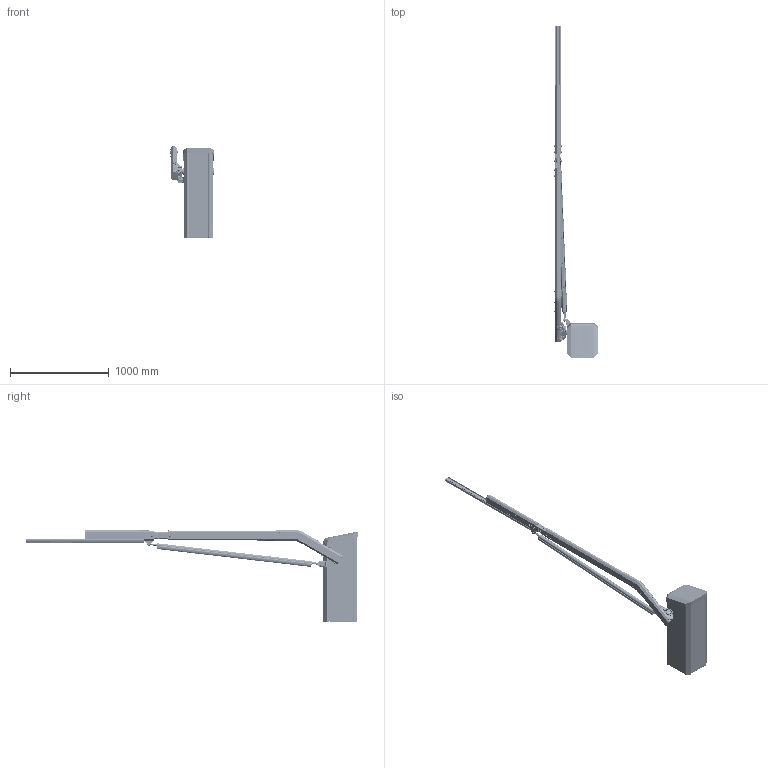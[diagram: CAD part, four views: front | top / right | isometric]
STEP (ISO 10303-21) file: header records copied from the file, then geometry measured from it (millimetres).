
FILE_DESCRIPTION(/* description */ ('Unknown'),/* implementation_level */ '2;1');
FILE_NAME(/* name */ '55860003',/* time_stamp */ '2020-07-15T16:30:35+02:00',/* author */ ('Unknown'),/* organization */ ('Unknown'),/* preprocessor_version */ 'ST-DEVELOPER v16.7',/* originating_system */ 'DEX',/* authorisation */ $);
FILE_SCHEMA (('AUTOMOTIVE_DESIGN {1 0 10303 214 3 1 1}'));
Products named in the file (100): 55860003; 59775127_VarioBoom_geschlossen_oa_0; 55860003_Baum 1296_oa_1; 55155391_1575_oa_2; 55155391_1575_oa_3; 34915000; 20185227; 20185227_oa_4; 20185229; 20185229_oa_5; 55065043_21085028a; 33005001; 20345477; 20345477-oa23; 20515008; 30195029; 31460001b; 20175122; 20125012; 35000010; 33135000; 35135002; 34845026; 34980015; 33075000; 34855035; 35130004; 20405925; 31460011b; 31460011a; 20170308; 31460001a; 20170307; 55065043_20695081c; 34745020; 33000002; ACCESS-R-HUELLE; 10435375; 20435695; 34685017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
Assembly tree (175 placements, depth 6):
  55860003
    59775127_VarioBoom_geschlossen_oa_0
      55860003_Baum 1296_oa_1
        55155391_1575_oa_2
          55155391_1575_oa_3
          34915000  x2
          20185227  x2
          20185227_oa_4
          20185229  x2
          20185229_oa_5
      55065043_21085028a
      33005001
      20345477
      20345477-oa23
      20515008  x2
      30195029  x4
      31460001b
      20175122
      20125012
      35000010  x2
      33135000  x2
      35135002  x10
      34845026  x10
      34980015  x4
      33075000  x2
      34855035  x2
      35130004  x2
      20405925
      31460011b
      31460011a
      20170308
      31460001a
      20170307
      55065043_20695081c
      34745020  x2
      33000002
      ACCESS-R-HUELLE
        10435375
          20435695
          34685017
            34685017a
            34685017c
            34685017b
            34685017d
          20585064
        20195087  x2
        20435694
        20775048  x2
        10335028  x2
          20695070
          20375010
        20165183
        10085135
          20695057
          34745013  x5
          20345347
          20345348
          10085135-Dichtung
        20415077
          20415077a
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Bounding box: 449.89 x 3368.47 x 932.66 mm (x, y, z)
Volume: 14772639.6 mm3; surface area: 7549041.7 mm2
Topology: 161 solids, 161 shells, 13446 faces, 33172 edges, 20045 vertices
Faces by surface type: plane 4587, cylinder 4461, bspline 2779, cone 730, torus 719, sphere 170
Full cylindrical faces by diameter (mm): 0.5 x1, 1.5 x3, 1.8 x2, 3 x6, 3.2 x1, 3.5 x8, 3.6 x4, 3.65 x4, 3.9 x6, 4 x1, 4.134 x2, 4.773 x5, 4.8 x2, 4.9 x3, 4.917 x28, 5.5 x2, 6 x35, 6.4 x14, 6.466 x10, 6.5 x12, 6.647 x23, 7 x4, 7.1 x2, 8 x24, 8.4 x10, 9 x22, 9.853 x6, 10 x22, 10.1 x4, 10.106 x7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
Entity records: 297305 total; most frequent: CARTESIAN_POINT 116608, ORIENTED_EDGE 35982, DIRECTION 33880, EDGE_CURVE 17991, AXIS2_PLACEMENT_3D 12454, VERTEX_POINT 11319, LINE 8972, VECTOR 8972
